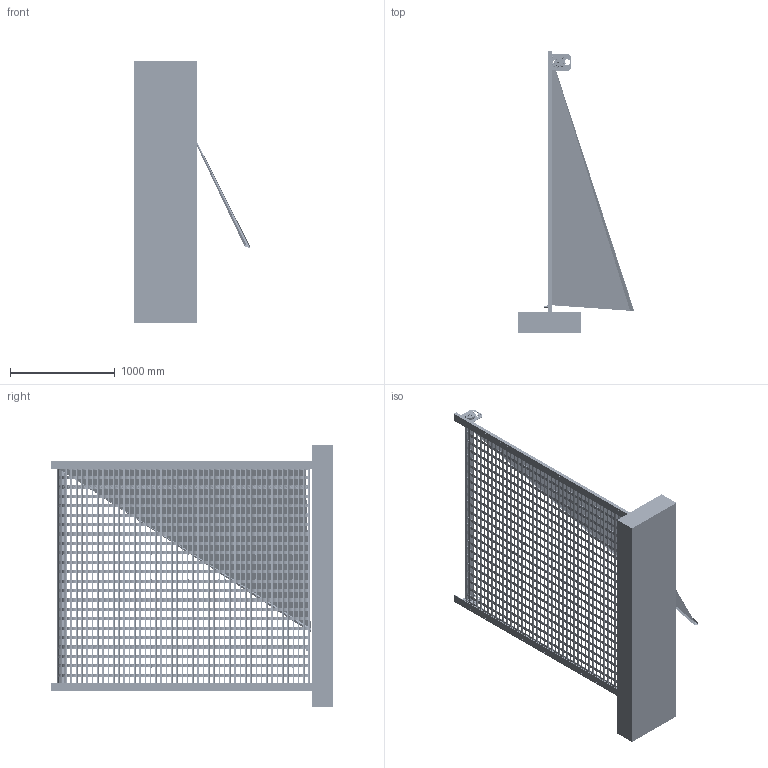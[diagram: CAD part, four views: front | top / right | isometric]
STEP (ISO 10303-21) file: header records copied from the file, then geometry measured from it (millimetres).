
FILE_DESCRIPTION (( 'STEP AP203' ), '1' );
FILE_NAME ('Kokema CD 600 U.STEP', '2019-06-28T08:24:37', ( '' ), ( '' ), 'SwSTEP 2.0', 'SolidWorks 2017', '' );
FILE_SCHEMA (( 'CONFIG_CONTROL_DESIGN' ));
Length unit declared in the file: millimetre
Products named in the file (17): Kokema CD 600 U; S鄣k闣oottori; 8mm ruuvi; S鄣k闣oottori 2; CD 600 N pitkä; CD 600 N ovipaketti; Ovien keskipaikoisjarru; Stoppari; Kannake 1; UPH 140 R vasen; Moottorin kannatin 16mm neliöakselille; UPH 140 R oikea; S鄣k闥銛tt鑀nen akseli; Akseli 70 x 1 2200; Betonilaatta; 70mm tulppa veivikäyttö
Assembly tree (69 placements, depth 4):
  Kokema CD 600 U
    8mm ruuvi  x4
    CD 600 N ovipaketti
      CD 600 N pitkä  x49
    Stoppari  x2
    UPH 140 R vasen
    UPH 140 R oikea
    S鄣k闥銛tt鑀nen akseli
      Akseli 70 x 1 2200
      70mm tulppa veivikäyttö
      S鄣k闣oottori
        S鄣k闣oottori
        S鄣k闣oottori 2
      Ovien keskipaikoisjarru
      Kannake 1  x2
      Moottorin kannatin 16mm neliöakselille
    Betonilaatta
Bounding box: 1111.38 x 2700 x 2500 mm (x, y, z)
Volume: 317627117.6 mm3; surface area: 20324462 mm2
Topology: 66 solids, 67 shells, 11837 faces, 38271 edges, 25463 vertices
Faces by surface type: cylinder 6118, plane 5565, torus 90, bspline 36, cone 20, sphere 8
Full cylindrical faces by diameter (mm): 3 x10, 3.5 x2, 4 x17, 6 x3, 7 x2, 7.2 x2, 8 x100, 9 x2, 12 x1, 15.6 x1, 20 x1, 20.537 x1, 21.6 x1, 24.077 x2, 26 x1, 28.863 x1, 40.6 x1, 45 x1, 46 x1, 48 x2
Entity records: 67920 total; most frequent: CARTESIAN_POINT 18901, ORIENTED_EDGE 9744, DIRECTION 9068, EDGE_CURVE 4872, VERTEX_POINT 3276, AXIS2_PLACEMENT_3D 3220, LINE 2628, VECTOR 2628
